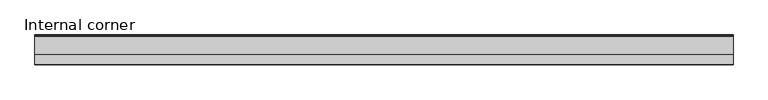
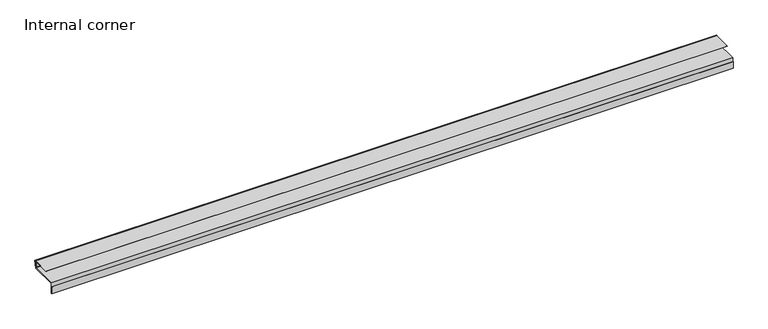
"""IFC4 building model written with IfcOpenShell, lengths in millimetres: beam geometry, TE-H-05_02_Internal corner i_BEAM : Internal corner."""

from ifc_helpers import new_model, si_unit, frame, origin, place, context, project, spatial, polyline, outline, extrude, source, transform, mapped, element, save


def internal_corner_0fc19c92(model_context):
    return source(origin(), model_context, "Body", "SweptSolid", [
        extrude(outline(polyline([(80.4617197, -2.4), (30.9830098, -2.4), (30.9830098, -1.6), (81.5043, -1.6), (77.4870945, -16.592415), (76.7143538, -16.3853598), (80.4617197, -2.4)])), frame((-920.0, 0.0, 0.0), z_axis=(1.0, 0.0, 0.0), x_axis=(0.0, 1.0, 0.0)), (0.0, 0.0, 1.0), 1940.6),
        extrude(outline(polyline([(77.1994161, -18.4469826), (81.9616865, -0.6739474), (84.6662789, -1.3986408), (79.3069308, -21.4), (4.4, -21.4), (4.4, -51.4), (1.6, -51.4), (1.6, -31.0), (2.4, -31.0), (2.4, -50.6), (3.6, -50.6), (3.6, -20.6), (78.6930692, -20.6), (83.686483, -1.9643262), (82.527372, -1.6537433), (77.9721568, -18.6540379), (77.1994161, -18.4469826)])), frame((-920.0, 0.0, 0.0), z_axis=(1.0, 0.0, 0.0), x_axis=(0.0, 1.0, 0.0)), (0.0, 0.0, 1.0), 1940.6),
    ])


if __name__ == "__main__":
    model = new_model("IFC4")
    model_context = context("Model", 3, world=origin())
    ifc_project = project(units=[si_unit("LENGTHUNIT", "METRE", prefix="MILLI")], contexts=[model_context])
    site = spatial("IfcSite", under=ifc_project)
    building = spatial("IfcBuilding", under=site)
    placement = place(None, origin())
    internal_corner_shape = internal_corner_0fc19c92(model_context)
    element("IfcBeam", 1, ObjectType="TE-H-05_02_Internal corner i_BEAM : Internal corner", at=placement, inside=building, context=model_context, shape_type="MappedRepresentation", body=[
        mapped(internal_corner_shape, transform((0.0, 0.0, 0.0), x_axis=(1.0, 0.0, 0.0), y_axis=(0.0, 1.0, 0.0), z_axis=(0.0, 0.0, 1.0))),
    ])
    save(model, "model.ifc")
